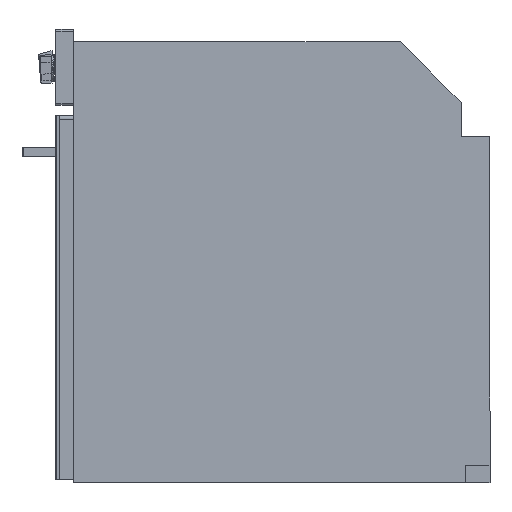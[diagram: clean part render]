
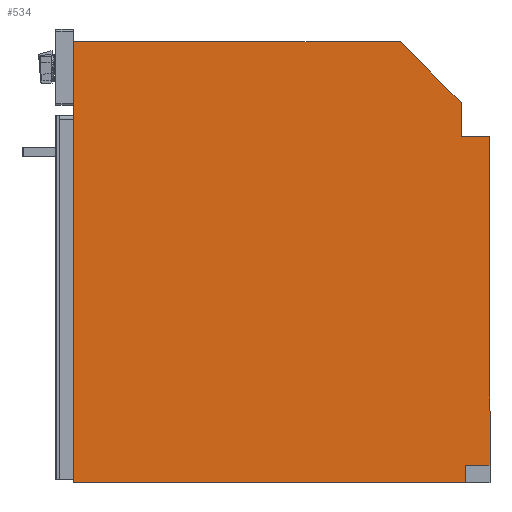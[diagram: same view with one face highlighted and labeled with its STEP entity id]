
A CAD part, left-side view. The second image highlights one B-rep face of the part: STEP entity #534.
In plain terms, the highlighted planar face has unit normal (-1, 0, 0).
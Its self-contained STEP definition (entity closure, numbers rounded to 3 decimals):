
#534=ADVANCED_FACE('',(#898),#745,.T.);
#745=PLANE('',#4020);
#898=FACE_OUTER_BOUND('',#1100,.T.);
#1100=EDGE_LOOP('',(#1663,#1664,#1665,#1666,#1667,#1668,#1669,#1670,#1671));
#1663=ORIENTED_EDGE('',*,*,#2929,.T.);
#1664=ORIENTED_EDGE('',*,*,#2936,.T.);
#1665=ORIENTED_EDGE('',*,*,#2939,.T.);
#1666=ORIENTED_EDGE('',*,*,#2942,.T.);
#1667=ORIENTED_EDGE('',*,*,#2945,.T.);
#1668=ORIENTED_EDGE('',*,*,#2948,.T.);
#1669=ORIENTED_EDGE('',*,*,#2951,.T.);
#1670=ORIENTED_EDGE('',*,*,#2923,.T.);
#1671=ORIENTED_EDGE('',*,*,#2959,.T.);
#2540=VERTEX_POINT('',#5875);
#2541=VERTEX_POINT('',#5877);
#2546=VERTEX_POINT('',#5890);
#2547=VERTEX_POINT('',#5891);
#2552=VERTEX_POINT('',#5904);
#2554=VERTEX_POINT('',#5910);
#2556=VERTEX_POINT('',#5916);
#2558=VERTEX_POINT('',#5922);
#2560=VERTEX_POINT('',#5928);
#2923=EDGE_CURVE('',#2541,#2540,#3384,.T.);
#2929=EDGE_CURVE('',#2546,#2547,#3390,.T.);
#2936=EDGE_CURVE('',#2547,#2552,#3397,.T.);
#2939=EDGE_CURVE('',#2552,#2554,#3400,.T.);
#2942=EDGE_CURVE('',#2554,#2556,#3403,.T.);
#2945=EDGE_CURVE('',#2556,#2558,#3406,.T.);
#2948=EDGE_CURVE('',#2558,#2560,#3409,.T.);
#2951=EDGE_CURVE('',#2560,#2541,#3412,.T.);
#2959=EDGE_CURVE('',#2540,#2546,#3420,.T.);
#3384=LINE('',#5876,#3674);
#3390=LINE('',#5889,#3680);
#3397=LINE('',#5903,#3687);
#3400=LINE('',#5909,#3690);
#3403=LINE('',#5915,#3693);
#3406=LINE('',#5921,#3696);
#3409=LINE('',#5927,#3699);
#3412=LINE('',#5933,#3702);
#3420=LINE('',#5945,#3710);
#3674=VECTOR('',#4431,1.);
#3680=VECTOR('',#4441,1.);
#3687=VECTOR('',#4450,1.);
#3690=VECTOR('',#4455,1.);
#3693=VECTOR('',#4460,1.);
#3696=VECTOR('',#4465,1.);
#3699=VECTOR('',#4470,1.);
#3702=VECTOR('',#4475,1.);
#3710=VECTOR('',#4487,1.);
#4020=AXIS2_PLACEMENT_3D('',#5948,#4492,#4493);
#4431=DIRECTION('',(0.,0.,1.));
#4441=DIRECTION('',(0.,0.,1.));
#4450=DIRECTION('',(0.,1.,0.));
#4455=DIRECTION('',(0.,0.,1.));
#4460=DIRECTION('',(0.,0.707,0.707));
#4465=DIRECTION('',(0.,1.,0.));
#4470=DIRECTION('',(0.,0.,-1.));
#4475=DIRECTION('',(0.,-1.,0.));
#4487=DIRECTION('',(0.,-1.,0.));
#4492=DIRECTION('',(-1.,0.,0.));
#4493=DIRECTION('',(0.,0.,1.));
#5875=CARTESIAN_POINT('',(-275.,32.,23.));
#5876=CARTESIAN_POINT('',(-275.,32.,0.));
#5877=CARTESIAN_POINT('',(-275.,32.,0.));
#5889=CARTESIAN_POINT('',(-275.,0.,23.));
#5890=CARTESIAN_POINT('',(-275.,0.,23.));
#5891=CARTESIAN_POINT('',(-275.,0.,455.));
#5903=CARTESIAN_POINT('',(-275.,0.,455.));
#5904=CARTESIAN_POINT('',(-275.,38.,455.));
#5909=CARTESIAN_POINT('',(-275.,38.,455.));
#5910=CARTESIAN_POINT('',(-275.,38.,500.));
#5915=CARTESIAN_POINT('',(-275.,38.,500.));
#5916=CARTESIAN_POINT('',(-275.,118.,580.));
#5921=CARTESIAN_POINT('',(-275.,118.,580.));
#5922=CARTESIAN_POINT('',(-275.,548.,580.));
#5927=CARTESIAN_POINT('',(-275.,548.,580.));
#5928=CARTESIAN_POINT('',(-275.,548.,0.));
#5933=CARTESIAN_POINT('',(-275.,548.,0.));
#5945=CARTESIAN_POINT('',(-275.,32.,23.));
#5948=CARTESIAN_POINT('',(-275.,0.,0.));
